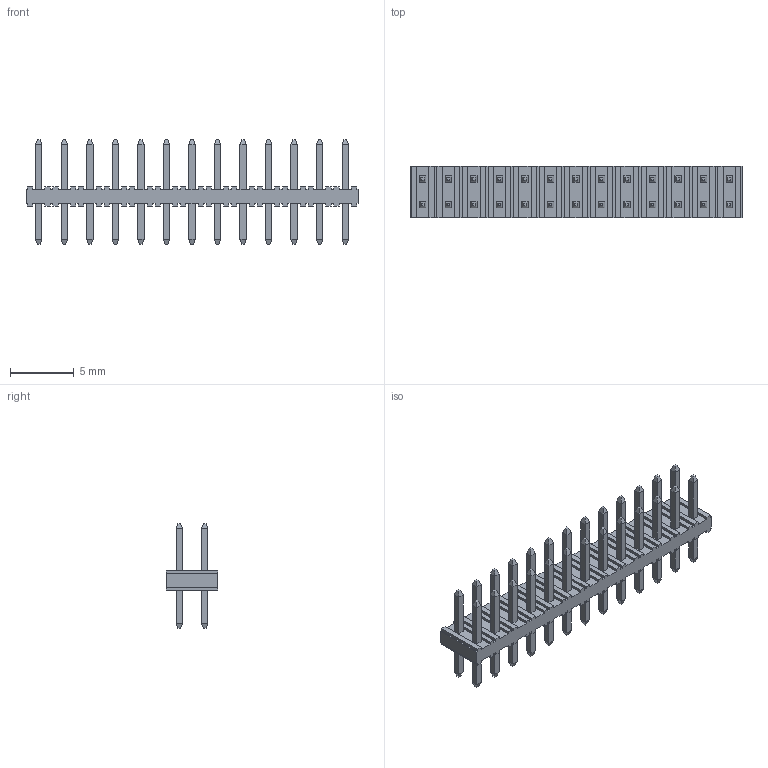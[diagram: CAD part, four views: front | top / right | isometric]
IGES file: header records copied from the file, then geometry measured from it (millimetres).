
Start section: SolidWorks IGES file using analytic representation for surfaces
Global section: file name: E:\¾G¶³-3D\2111-2X13G00SB.IGS; native system: SolidWorks 2007; preprocessor: SolidWorks 2007; author: knoprd64; date: 101208.175053; units: millimetre
Bounding box: 26 x 4 x 8.2 mm (x, y, z)
Surface area: 827.4 mm2 (no closed solid volume)
Topology: 0 solids, 0 shells, 682 faces, 3352 edges, 3352 vertices
Faces by surface type: bspline 682
